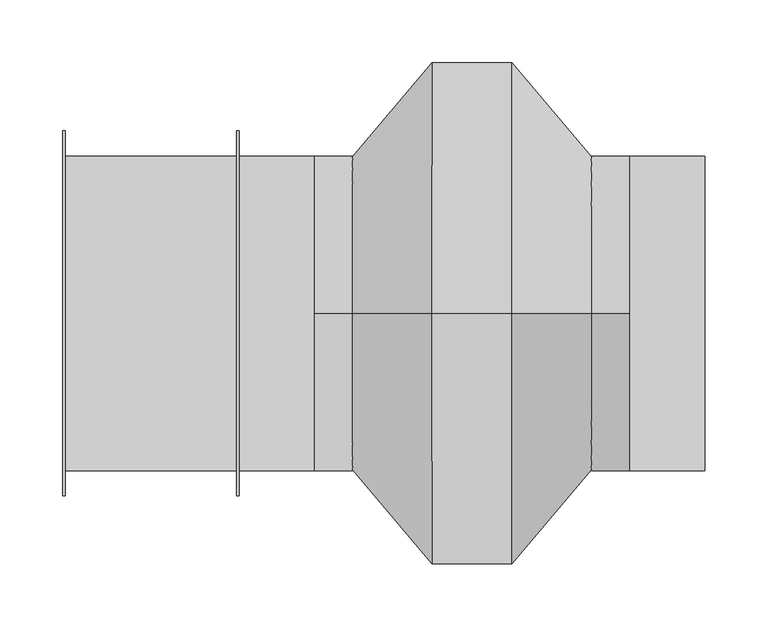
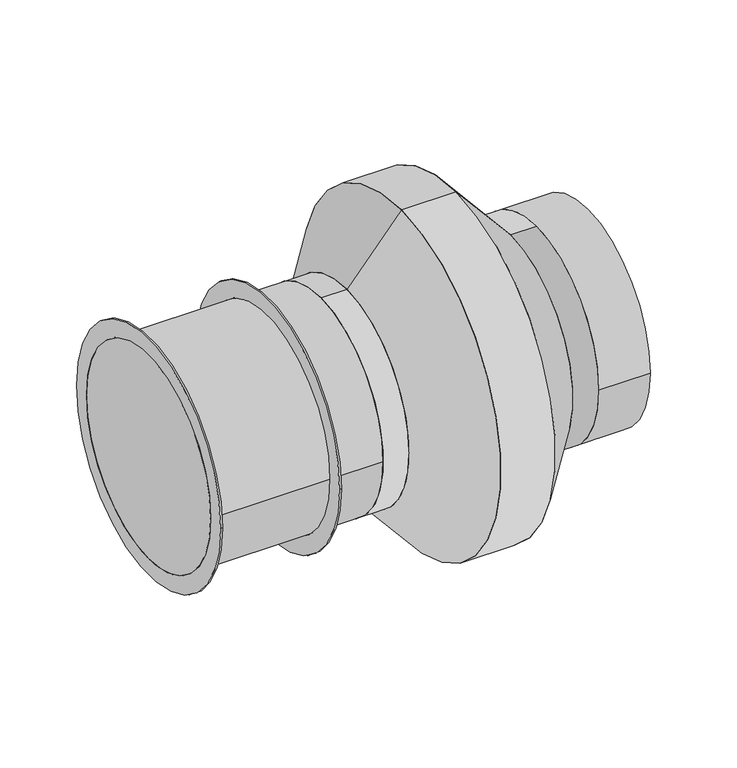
"""IFC4 building model written with IfcOpenShell, lengths in millimetres: proxy geometry, APMV_Установка ПД КЦКП-К-200 : APMV_Установка ПД КЦКП-К-200."""

from ifc_helpers import new_model, si_unit, point, frame, origin, origin_2d, place, context, project, spatial, polyline, circle_curve, trimmed, segment, composite_curve, outline, extrude, source, transform, mapped, element, save
from ifc_brep_helpers import plane_surface, revolved_surface, advanced_brep


def mechanical_equipment_3895456b(model_context):
    return source(origin(), model_context, "Body", "SolidModel", [
        advanced_brep(
        [(-81.568658, 0.0, -125.0), (-81.568658, 0.0, 125.0), (-144.9019913, 0.0, -200.0), (-144.9019913, 0.0, 200.0)],
        [
            (0, 1, circle_curve(frame((-81.568658, 0.0, 0.0), z_axis=(1.0, 0.0, 0.0), x_axis=(0.0, 0.0, -1.0)), 125.0)),
            (1, 0, circle_curve(frame((-81.568658, 0.0, 0.0), z_axis=(1.0, 0.0, 0.0), x_axis=(0.0, 0.0, 1.0)), 125.0)),
            (2, 3, circle_curve(frame((-144.9019913, 0.0, 0.0), z_axis=(-1.0, 0.0, 0.0), x_axis=(0.0, 0.0, 1.0)), 200.0)),
            (3, 2, circle_curve(frame((-144.9019913, 0.0, 0.0), z_axis=(-1.0, 0.0, 0.0), x_axis=(0.0, 0.0, -1.0)), 200.0)),
            (3, 1),
            (0, 2),
        ],
        [
            plane_surface(frame((-81.568658, 0.0, 0.0), z_axis=(1.0, 0.0, 0.0), x_axis=(0.0, -1.0, 0.0))),
            plane_surface(frame((-144.9019913, 0.0, 0.0), z_axis=(-1.0, 0.0, 0.0), x_axis=(0.0, -1.0, 0.0))),
            revolved_surface(polyline([(-81.568658, 0.0, -125.0000000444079), (-144.9019913, 0.0, -200.0)]), (23.9868976, 0.0, 0.0), (-1.0, 0.0, 0.0)),
            revolved_surface(polyline([(-81.568658, 0.0, 125.0000000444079), (-144.9019913, 0.0, 200.0)]), (23.9868976, 0.0, 0.0), (-1.0, 0.0, 0.0)),
        ],
        [
            (0, [[1, 2]]),
            (1, [[3, 4]]),
            (2, [[-4, 5, -1, 6]]),
            (3, [[-3, -6, -2, -5]]),
        ],
    ),
        extrude(outline(composite_curve([segment(trimmed(circle_curve(origin_2d(), 125.0), [point((0.0, -125.0))], [point((0.0, 125.0))], False, "CARTESIAN"), True, "CONTINUOUS"), segment(trimmed(circle_curve(origin_2d(), 125.0), [point((0.0, 125.0))], [point((0.0, -125.0))], False, "CARTESIAN"), True, "CONTINUOUS")], self_intersect=False)), frame((-81.568658, 0.0, 0.0), z_axis=(1.0, 0.0, 0.0), x_axis=(0.0, 1.0, 0.0)), (0.0, 0.0, 1.0), 30.0),
        extrude(outline(composite_curve([segment(trimmed(circle_curve(origin_2d(), 200.0), [point((0.0, -200.0))], [point((0.0, 200.0))], False, "CARTESIAN"), True, "CONTINUOUS"), segment(trimmed(circle_curve(origin_2d(), 200.0), [point((0.0, 200.0))], [point((0.0, -200.0))], False, "CARTESIAN"), True, "CONTINUOUS")], self_intersect=False)), frame((-208.2353247, 0.0, 0.0), z_axis=(1.0, 0.0, 0.0), x_axis=(0.0, 1.0, 0.0)), (0.0, 0.0, 1.0), 63.3333333),
        advanced_brep(
        [(-271.568658, 0.0, -125.0), (-271.568658, 0.0, 125.0), (-208.2353247, 0.0, -200.0), (-208.2353247, 0.0, 200.0)],
        [
            (0, 1, circle_curve(frame((-271.568658, 0.0, 0.0), z_axis=(-1.0, 0.0, 0.0), x_axis=(0.0, 0.0, -1.0)), 125.0)),
            (1, 0, circle_curve(frame((-271.568658, 0.0, 0.0), z_axis=(-1.0, 0.0, 0.0), x_axis=(0.0, 0.0, 1.0)), 125.0)),
            (2, 3, circle_curve(frame((-208.2353247, 0.0, 0.0), z_axis=(1.0, 0.0, 0.0), x_axis=(0.0, 0.0, 1.0)), 200.0)),
            (3, 2, circle_curve(frame((-208.2353247, 0.0, 0.0), z_axis=(1.0, 0.0, 0.0), x_axis=(0.0, 0.0, -1.0)), 200.0)),
            (2, 0),
            (1, 3),
        ],
        [
            plane_surface(frame((-271.568658, 0.0, 0.0), z_axis=(-1.0, 0.0, 0.0), x_axis=(0.0, 1.0, 0.0))),
            plane_surface(frame((-208.2353247, 0.0, 0.0), z_axis=(1.0, 0.0, 0.0), x_axis=(0.0, 1.0, 0.0))),
            revolved_surface(polyline([(-271.568658, 0.0, 125.00000004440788), (-208.2353247, 0.0, 200.0)]), (-377.1242136, 0.0, 0.0), (1.0, 0.0, 0.0)),
            revolved_surface(polyline([(-271.568658, 0.0, -125.00000004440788), (-208.2353247, 0.0, -200.0)]), (-377.1242136, 0.0, 0.0), (1.0, 0.0, 0.0)),
        ],
        [
            (0, [[1, 2]]),
            (1, [[3, 4]]),
            (2, [[-3, 5, -2, 6]]),
            (3, [[-4, -6, -1, -5]]),
        ],
    ),
        extrude(outline(composite_curve([segment(trimmed(circle_curve(origin_2d(), 125.0), [point((0.0, -125.0))], [point((0.0, 125.0))], False, "CARTESIAN"), True, "CONTINUOUS"), segment(trimmed(circle_curve(origin_2d(), 125.0), [point((0.0, 125.0))], [point((0.0, -125.0))], False, "CARTESIAN"), True, "CONTINUOUS")], self_intersect=False)), frame((-301.568658, 0.0, 0.0), z_axis=(1.0, 0.0, 0.0), x_axis=(0.0, 1.0, 0.0)), (0.0, 0.0, 1.0), 30.0),
        extrude(outline(composite_curve([segment(trimmed(circle_curve(origin_2d(), 125.0), [point((-125.0, 0.0))], [point((125.0, 0.0))], False, "CARTESIAN"), True, "CONTINUOUS"), segment(trimmed(circle_curve(origin_2d(), 125.0), [point((125.0, 0.0))], [point((-125.0, 0.0))], False, "CARTESIAN"), True, "CONTINUOUS")], self_intersect=False)), frame((-51.568658, 0.0, 0.0), z_axis=(1.0, 0.0, 0.0), x_axis=(0.0, 1.0, 0.0)), (0.0, 0.0, 1.0), 60.0),
        extrude(outline(composite_curve([segment(trimmed(circle_curve(origin_2d(), 125.0), [point((-125.0, 0.0))], [point((125.0, 0.0))], False, "CARTESIAN"), True, "CONTINUOUS"), segment(trimmed(circle_curve(origin_2d(), 125.0), [point((125.0, 0.0))], [point((-125.0, 0.0))], False, "CARTESIAN"), True, "CONTINUOUS")], self_intersect=False)), frame((-361.568658, 0.0, 0.0), z_axis=(1.0, 0.0, 0.0), x_axis=(0.0, 1.0, 0.0)), (0.0, 0.0, 1.0), 60.0),
        extrude(outline(composite_curve([segment(trimmed(circle_curve(origin_2d(), 145.0), [point((-145.0, 0.0))], [point((145.0, 0.0))], False, "CARTESIAN"), True, "CONTINUOUS"), segment(trimmed(circle_curve(origin_2d(), 145.0), [point((145.0, 0.0))], [point((-145.0, 0.0))], False, "CARTESIAN"), True, "CONTINUOUS")], self_intersect=False), holes=[composite_curve([segment(trimmed(circle_curve(origin_2d(), 125.0), [point((-125.0, 0.0))], [point((125.0, 0.0))], True, "CARTESIAN"), True, "CONTINUOUS"), segment(trimmed(circle_curve(origin_2d(), 125.0), [point((125.0, 0.0))], [point((-125.0, 0.0))], True, "CARTESIAN"), True, "CONTINUOUS")], self_intersect=False)]), frame((-501.568658, 0.0, 0.0), z_axis=(1.0, 0.0, 0.0), x_axis=(0.0, 1.0, 0.0)), (0.0, 0.0, 1.0), 2.0),
        extrude(outline(composite_curve([segment(trimmed(circle_curve(origin_2d(), 145.0), [point((-145.0, 0.0))], [point((145.0, 0.0))], False, "CARTESIAN"), True, "CONTINUOUS"), segment(trimmed(circle_curve(origin_2d(), 145.0), [point((145.0, 0.0))], [point((-145.0, 0.0))], False, "CARTESIAN"), True, "CONTINUOUS")], self_intersect=False), holes=[composite_curve([segment(trimmed(circle_curve(origin_2d(), 125.0), [point((-125.0, 0.0))], [point((125.0, 0.0))], True, "CARTESIAN"), True, "CONTINUOUS"), segment(trimmed(circle_curve(origin_2d(), 125.0), [point((125.0, 0.0))], [point((-125.0, 0.0))], True, "CARTESIAN"), True, "CONTINUOUS")], self_intersect=False)]), frame((-363.568658, 0.0, 0.0), z_axis=(1.0, 0.0, 0.0), x_axis=(0.0, 1.0, 0.0)), (0.0, 0.0, 1.0), 2.0),
        extrude(outline(composite_curve([segment(trimmed(circle_curve(origin_2d(), 125.0), [point((-125.0, 0.0))], [point((125.0, 0.0))], False, "CARTESIAN"), True, "CONTINUOUS"), segment(trimmed(circle_curve(origin_2d(), 125.0), [point((125.0, 0.0))], [point((-125.0, 0.0))], False, "CARTESIAN"), True, "CONTINUOUS")], self_intersect=False)), frame((-501.568658, 0.0, 0.0), z_axis=(1.0, 0.0, 0.0), x_axis=(0.0, 1.0, 0.0)), (0.0, 0.0, 1.0), 140.0),
    ])


if __name__ == "__main__":
    model = new_model("IFC4")
    model_context = context("Model", 3, world=origin())
    ifc_project = project(units=[si_unit("LENGTHUNIT", "METRE", prefix="MILLI")], contexts=[model_context])
    site = spatial("IfcSite", under=ifc_project)
    building = spatial("IfcBuilding", under=site)
    placement = place(None, origin())
    mechanical_equipment_shape = mechanical_equipment_3895456b(model_context)
    element("IfcBuildingElementProxy", 1, Name="APMV_Установка ПД КЦКП-К-200 : APMV_Установка ПД КЦКП-К-200", ObjectType="APMV_Установка ПД КЦКП-К-200 : APMV_Установка ПД КЦКП-К-200", at=placement, inside=building, context=model_context, shape_type="MappedRepresentation", body=[
        mapped(mechanical_equipment_shape, transform((0.0, 0.0, 0.0), x_axis=(1.0, 0.0, 0.0), y_axis=(0.0, 1.0, 0.0), z_axis=(0.0, 0.0, 1.0))),
    ])
    save(model, "model.ifc")
